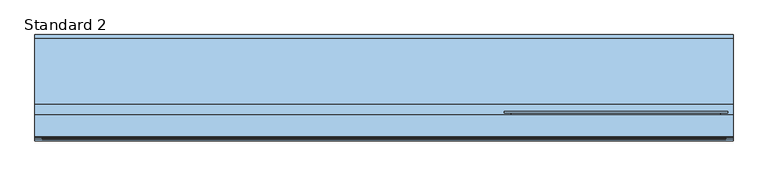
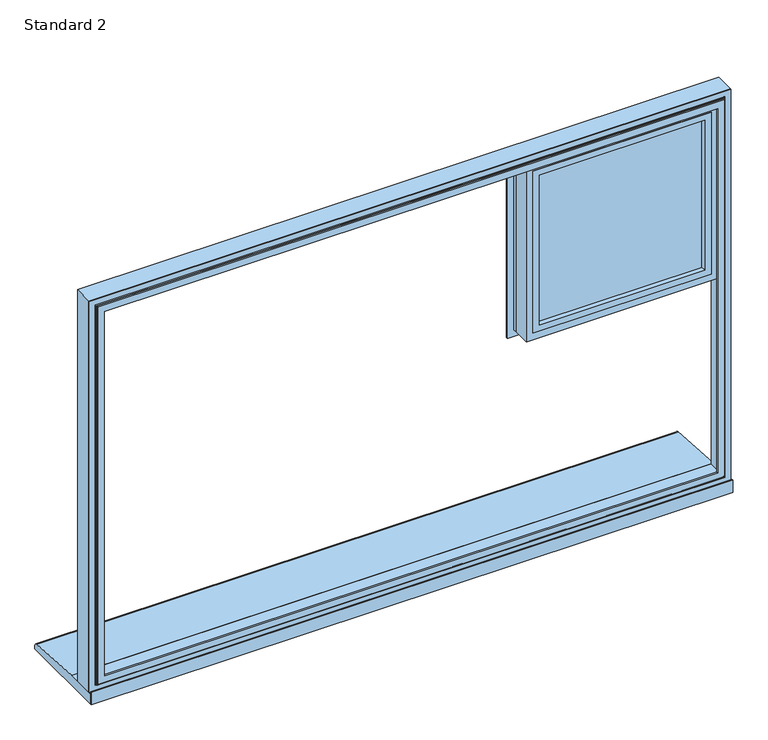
"""IFC4 building model written with IfcOpenShell, lengths in millimetres: window geometry, SMARTS_AlithermHeritage : Standard 2."""

from ifc_helpers import new_model, si_unit, point, frame, frame_2d, origin, place, context, project, spatial, polyline, circle_curve, ellipse_curve, trimmed, segment, composite_curve, outline, extrude, source, transform, mapped, element, save
from ifc_brep_helpers import plane_surface, cylinder_surface, revolved_surface, advanced_brep


def standard_2_7d086ee7(model_context):
    return source(origin(), model_context, "Body", "SolidModel", [
        extrude(outline(polyline([(1590.0, 740.0), (1590.0, -740.0), (635.0, -740.0), (635.0, 740.0), (1590.0, 740.0)]), holes=[polyline([(652.7000182, 722.2999818), (652.7000182, -722.2999818), (1572.2999818, -722.2999818), (1572.2999818, 722.2999818), (652.7000182, 722.2999818)])]), frame((0.0, 50.279857, 0.0), z_axis=(0.0, 1.0, 0.0), x_axis=(0.0, 0.0, 1.0)), (0.0, 0.0, 1.0), 44.9999962),
        advanced_brep(
        [(707.0, 43.2798432, 1557.0), (707.0, 47.2798432, 1557.0), (707.0, 47.2798432, 668.0), (707.0, 43.2798432, 668.0), (740.0, 50.279857, 1590.0), (740.0, 48.279857, 1590.0), (740.0, 48.279857, 635.0), (740.0, 50.279857, 635.0), (722.4999818, 43.2798432, 1572.4999818), (-722.4999818, 43.2798432, 1572.4999818), (-722.4999818, 43.2798432, 652.5000182), (722.4999818, 43.2798432, 652.5000182), (-707.0, 43.2798432, 668.0), (-707.0, 43.2798432, 1557.0), (-740.0, 50.279857, 1590.0), (-740.0, 48.279857, 1590.0), (-740.0, 50.279857, 635.0), (722.2999818, 50.279857, 1572.2999818), (-722.2999818, 50.279857, 1572.2999818), (-722.2999818, 50.279857, 652.7000182), (722.2999818, 50.279857, 652.7000182), (-707.0, 47.2798432, 1557.0), (-707.0, 47.2798432, 668.0), (-740.0, 48.279857, 635.0), (-722.2999818, 47.2798432, 1572.2999818), (722.2999818, 47.2798432, 1572.2999818), (722.2999818, 47.2798432, 652.7000182), (724.4999818, 46.779857, 650.5000182), (724.4999818, 45.2798432, 650.5000182), (-724.4999818, 45.2798432, 650.5000182), (-724.4999818, 46.779857, 650.5000182), (724.4999818, 46.779857, 1574.4999818), (724.4999818, 45.2798432, 1574.4999818), (-722.2999818, 47.2798432, 652.7000182), (-724.4999818, 45.2798432, 1574.4999818), (-724.4999818, 46.779857, 1574.4999818), (725.9999818, 48.279857, 1575.9999818), (725.9999818, 48.279857, 649.0000182), (-725.9999818, 48.279857, 649.0000182), (-725.9999818, 48.279857, 1575.9999818)],
        [
            (0, 1),
            (1, 2),
            (2, 3),
            (3, 0),
            (4, 5),
            (5, 6),
            (6, 7),
            (7, 4),
            (8, 9),
            (9, 10),
            (10, 11),
            (11, 8),
            (3, 12),
            (12, 13),
            (13, 0),
            (14, 15),
            (15, 5),
            (4, 14),
            (7, 16),
            (16, 14),
            (17, 18),
            (18, 19),
            (19, 20),
            (20, 17),
            (13, 21),
            (21, 1),
            (2, 22),
            (22, 12),
            (22, 21),
            (6, 23),
            (23, 16),
            (23, 15),
            (24, 18),
            (17, 25),
            (25, 24),
            (20, 26),
            (26, 25),
            (27, 28),
            (28, 29),
            (29, 30),
            (30, 27),
            (31, 32),
            (32, 28),
            (27, 31),
            (19, 33),
            (33, 26),
            (24, 33),
            (29, 34),
            (34, 35),
            (35, 30),
            (34, 32),
            (31, 35),
            (36, 31, ellipse_curve(frame((725.9999818, 46.779857, 1575.9999818), z_axis=(-0.7071067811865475, 0.0, 0.7071067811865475), x_axis=(-0.7071067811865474, 0.0, -0.7071067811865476)), 2.1213203, 1.5)),
            (27, 37, ellipse_curve(frame((725.9999818, 46.779857, 649.0000182), z_axis=(-0.7071067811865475, 0.0, -0.7071067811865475), x_axis=(0.7071067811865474, 0.0, -0.7071067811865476)), 2.1213203, 1.5)),
            (37, 36),
            (30, 38, ellipse_curve(frame((-725.9999818, 46.779857, 649.0000182), z_axis=(-0.7071067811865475, 0.0, 0.7071067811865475), x_axis=(-0.7071067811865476, 0.0, -0.7071067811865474)), 2.1213203, 1.5)),
            (38, 37),
            (35, 39, ellipse_curve(frame((-725.9999818, 46.779857, 1575.9999818), z_axis=(0.7071067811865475, 0.0, 0.7071067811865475), x_axis=(-0.7071067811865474, 0.0, 0.7071067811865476)), 2.1213203, 1.5)),
            (39, 38),
            (36, 39),
            (32, 8, ellipse_curve(frame((722.4999818, 45.2798432, 1572.4999818), z_axis=(0.7071067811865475, 0.0, -0.7071067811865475), x_axis=(0.7071067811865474, 0.0, 0.7071067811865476)), 2.8284271, 2.0)),
            (11, 28, ellipse_curve(frame((722.4999818, 45.2798432, 652.5000182), z_axis=(0.7071067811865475, 0.0, 0.7071067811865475), x_axis=(-0.7071067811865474, 0.0, 0.7071067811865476)), 2.8284271, 2.0)),
            (10, 29, ellipse_curve(frame((-722.4999818, 45.2798432, 652.5000182), z_axis=(0.7071067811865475, 0.0, -0.7071067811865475), x_axis=(0.7071067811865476, 0.0, 0.7071067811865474)), 2.8284271, 2.0)),
            (9, 34, ellipse_curve(frame((-722.4999818, 45.2798432, 1572.4999818), z_axis=(-0.7071067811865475, 0.0, -0.7071067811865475), x_axis=(0.7071067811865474, 0.0, -0.7071067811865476)), 2.8284271, 2.0)),
        ],
        [
            plane_surface(frame((707.0, 47.2798432, 1557.0), z_axis=(-1.0, 0.0, 0.0), x_axis=(0.0, 0.0, -1.0))),
            plane_surface(frame((740.0, 48.279857, 1590.0), z_axis=(1.0, 0.0, 0.0), x_axis=(0.0, 0.0, -1.0))),
            plane_surface(frame((-707.0, 43.2798432, 1557.0), z_axis=(0.0, -1.0, 0.0), x_axis=(1.0, 0.0, 0.0))),
            plane_surface(frame((-740.0, 48.279857, 1590.0), z_axis=(0.0, 0.0, 1.0), x_axis=(1.0, 0.0, 0.0))),
            plane_surface(frame((-740.0, 50.279857, 1590.0), z_axis=(0.0, 1.0, 0.0), x_axis=(1.0, 0.0, 0.0))),
            plane_surface(frame((-707.0, 47.2798432, 1557.0), z_axis=(0.0, 0.0, -1.0), x_axis=(1.0, 0.0, 0.0))),
            plane_surface(frame((707.0, 47.2798432, 668.0), z_axis=(0.0, 0.0, 1.0), x_axis=(-1.0, 0.0, 0.0))),
            plane_surface(frame((-707.0, 47.2798432, 668.0), z_axis=(1.0, 0.0, 0.0), x_axis=(0.0, 0.0, 1.0))),
            plane_surface(frame((740.0, 48.279857, 635.0), z_axis=(0.0, 0.0, -1.0), x_axis=(-1.0, 0.0, 0.0))),
            plane_surface(frame((-740.0, 48.279857, 635.0), z_axis=(-1.0, 0.0, 0.0), x_axis=(0.0, 0.0, 1.0))),
            plane_surface(frame((-722.2999818, 50.279857, 1572.2999818), z_axis=(0.0, 0.0, -1.0), x_axis=(1.0, 0.0, 0.0))),
            plane_surface(frame((722.2999818, 50.279857, 1572.2999818), z_axis=(-1.0, 0.0, 0.0), x_axis=(0.0, 0.0, -1.0))),
            plane_surface(frame((724.4999818, 45.2798432, 650.5000182), z_axis=(0.0, 0.0, -1.0), x_axis=(-1.0, 0.0, 0.0))),
            plane_surface(frame((724.4999818, 45.2798432, 1574.4999818), z_axis=(1.0, 0.0, 0.0), x_axis=(0.0, 0.0, -1.0))),
            plane_surface(frame((722.2999818, 50.279857, 652.7000182), z_axis=(0.0, 0.0, 1.0), x_axis=(-1.0, 0.0, 0.0))),
            plane_surface(frame((-722.2999818, 50.279857, 652.7000182), z_axis=(1.0, 0.0, 0.0), x_axis=(0.0, 0.0, 1.0))),
            plane_surface(frame((-724.4999818, 45.2798432, 650.5000182), z_axis=(-1.0, 0.0, 0.0), x_axis=(0.0, 0.0, 1.0))),
            plane_surface(frame((-722.2999818, 47.2798432, 1572.2999818), z_axis=(0.0, 1.0, 0.0), x_axis=(1.0, 0.0, 0.0))),
            plane_surface(frame((-724.4999818, 45.2798432, 1574.4999818), z_axis=(0.0, 0.0, 1.0), x_axis=(1.0, 0.0, 0.0))),
            revolved_surface(polyline([(724.4999818, 46.779857, 647.5000182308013), (724.4999818, 46.779857, 1577.4999817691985)]), (725.9999818, 46.779857, 1590.0), (0.0, 0.0, -1.0)),
            revolved_surface(polyline([(-727.4999817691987, 46.779857, 650.5000182), (727.4999817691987, 46.779857, 650.5000182)]), (740.0, 46.779857, 649.0000182), (-1.0, 0.0, 0.0)),
            revolved_surface(polyline([(-724.4999818, 46.779857, 1577.4999817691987), (-724.4999818, 46.779857, 647.5000182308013)]), (-725.9999818, 46.779857, 635.0), (0.0, 0.0, 1.0)),
            revolved_surface(polyline([(727.4999817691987, 46.779857, 1574.4999818), (-727.4999817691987, 46.779857, 1574.4999818)]), (-740.0, 46.779857, 1575.9999818), (1.0, 0.0, 0.0)),
            plane_surface(frame((-725.9999818, 48.279857, 1575.9999818), z_axis=(0.0, -1.0, 0.0), x_axis=(1.0, 0.0, 0.0))),
            cylinder_surface(frame((722.4999818, 45.2798432, 1590.0), z_axis=(0.0, 0.0, 1.0), x_axis=(-1.0, 0.0, 0.0)), 2.0),
            cylinder_surface(frame((740.0, 45.2798432, 652.5000182), z_axis=(1.0, 0.0, 0.0), x_axis=(0.0, 0.0, 1.0)), 2.0),
            cylinder_surface(frame((-722.4999818, 45.2798432, 635.0), z_axis=(0.0, 0.0, -1.0), x_axis=(1.0, 0.0, 0.0)), 2.0),
            cylinder_surface(frame((-740.0, 45.2798432, 1572.4999818), z_axis=(-1.0, 0.0, 0.0), x_axis=(0.0, 0.0, -1.0)), 2.0),
        ],
        [
            (0, [[1, 2, 3, 4]]),
            (1, [[5, 6, 7, 8]]),
            (2, [[9, 10, 11, 12], [13, 14, 15, -4]]),
            (3, [[16, 17, -5, 18]]),
            (4, [[19, 20, -18, -8], [21, 22, 23, 24]]),
            (5, [[25, 26, -1, -15]]),
            (6, [[-3, 27, 28, -13]]),
            (7, [[-28, 29, -25, -14]]),
            (8, [[-7, 30, 31, -19]]),
            (9, [[-31, 32, -16, -20]]),
            (10, [[33, -21, 34, 35]]),
            (11, [[-34, -24, 36, 37]]),
            (12, [[38, 39, 40, 41]]),
            (13, [[42, 43, -38, 44]]),
            (14, [[-36, -23, 45, 46]]),
            (15, [[-45, -22, -33, 47]]),
            (16, [[-40, 48, 49, 50]]),
            (17, [[-46, -47, -35, -37], [-26, -29, -27, -2]]),
            (18, [[-49, 51, -42, 52]]),
            (19, [[53, -44, 54, 55]]),
            (20, [[-54, -41, 56, 57]]),
            (21, [[-56, -50, 58, 59]]),
            (22, [[-58, -52, -53, 60]]),
            (23, [[-17, -32, -30, -6], [-57, -59, -60, -55]]),
            (24, [[61, -12, 62, -43]]),
            (25, [[-62, -11, 63, -39]]),
            (26, [[-63, -10, 64, -48]]),
            (27, [[-64, -9, -61, -51]]),
        ],
    ),
        extrude(outline(polyline([(289.1666667, 89.2798432), (693.5, 89.2798432), (693.5, 85.2798432), (289.1666667, 85.2798432), (289.1666667, 89.2798432)])), frame((0.0, 0.0, 1155.0), z_axis=(0.0, 0.0, 1.0), x_axis=(1.0, 0.0, 0.0)), (0.0, 0.0, 1.0), 388.5),
        extrude(outline(polyline([(289.1666667, 69.2798432), (693.5, 69.2798432), (693.5, 65.2798432), (289.1666667, 65.2798432), (289.1666667, 69.2798432)])), frame((0.0, 0.0, 1155.0), z_axis=(0.0, 0.0, 1.0), x_axis=(1.0, 0.0, 0.0)), (0.0, 0.0, 1.0), 388.5),
        extrude(outline(polyline([(1543.5, 289.1666667), (1155.0, 289.1666667), (1155.0, 693.5), (1543.5, 693.5), (1543.5, 289.1666667)]), holes=[polyline([(1533.5, 683.5), (1165.0, 683.5), (1165.0, 299.1666667), (1533.5, 299.1666667), (1533.5, 683.5)])]), frame((0.0, 69.2798432, 0.0), z_axis=(0.0, 1.0, 0.0), x_axis=(0.0, 0.0, 1.0)), (0.0, 0.0, 1.0), 16.0),
        extrude(outline(polyline([(1547.0052956, 285.661371), (1151.4947044, 285.661371), (1151.4947044, 697.0052956), (1547.0052956, 697.0052956), (1547.0052956, 285.661371)]), holes=[polyline([(1532.0, 682.0), (1166.5, 682.0), (1166.5, 300.6666667), (1532.0, 300.6666667), (1532.0, 682.0)])]), frame((0.0, 51.2798432, 0.0), z_axis=(0.0, 1.0, 0.0), x_axis=(0.0, 0.0, 1.0)), (0.0, 0.0, 1.0), 11.3),
        extrude(outline(polyline([(1135.8548042, 270.0214709), (1135.8548042, 712.6451958), (1562.6451958, 712.6451958), (1562.6451958, 270.0214709), (1135.8548042, 270.0214709)]), holes=[polyline([(1547.0, 285.6666667), (1547.0, 697.0), (1151.5, 697.0), (1151.5, 285.6666667), (1547.0, 285.6666667)])]), frame((0.0, 51.2798432, 0.0), z_axis=(0.0, 1.0, 0.0), x_axis=(0.0, 0.0, 1.0)), (0.0, 0.0, 1.0), 41.6),
        advanced_brep(
        [(300.6666667, 98.0798432, 1532.0), (300.6666667, 92.8798432, 1532.0), (300.6666667, 92.8798432, 1166.5), (300.6666667, 98.0798432, 1166.5), (682.0, 92.8798432, 1166.5), (682.0, 98.0798432, 1166.5), (682.0, 92.8798432, 1532.0), (682.0, 98.0798432, 1532.0), (254.4666667, 99.2798432, 1578.2), (254.4666667, 103.2798432, 1578.2), (254.4666667, 103.2798432, 1120.3), (254.4666667, 99.2798432, 1120.3), (728.2, 103.2798432, 1120.3), (728.2, 99.2798432, 1120.3), (728.2, 103.2798432, 1578.2), (728.2, 99.2798432, 1578.2), (269.5199009, 99.2798432, 1563.1467657), (713.1467657, 99.2798432, 1563.1467657), (713.1467657, 99.2798432, 1135.3532343), (269.5199009, 99.2798432, 1135.3532343), (283.4666667, 103.2798432, 1149.3), (699.2, 103.2798432, 1149.3), (699.2, 103.2798432, 1549.2), (283.4666667, 103.2798432, 1549.2), (269.5199009, 92.8798432, 1563.1467657), (269.5199009, 92.8798432, 1135.3532343), (713.1467657, 92.8798432, 1135.3532343), (713.1467657, 92.8798432, 1563.1467657), (285.4666667, 101.2798432, 1547.2), (285.4666667, 100.0798432, 1547.2), (285.4666667, 100.0798432, 1151.3), (285.4666667, 101.2798432, 1151.3), (287.4666667, 98.0798432, 1545.2), (287.4666667, 98.0798432, 1153.3), (697.2, 100.0798432, 1151.3), (697.2, 101.2798432, 1151.3), (695.2, 98.0798432, 1153.3), (697.2, 100.0798432, 1547.2), (697.2, 101.2798432, 1547.2), (695.2, 98.0798432, 1545.2)],
        [
            (0, 1),
            (1, 2),
            (2, 3),
            (3, 0),
            (2, 4),
            (4, 5),
            (5, 3),
            (4, 6),
            (6, 7),
            (7, 5),
            (6, 1),
            (0, 7),
            (8, 9),
            (9, 10),
            (10, 11),
            (11, 8),
            (10, 12),
            (12, 13),
            (13, 11),
            (12, 14),
            (14, 15),
            (15, 13),
            (15, 8),
            (16, 17),
            (17, 18),
            (18, 19),
            (19, 16),
            (14, 9),
            (20, 21),
            (21, 22),
            (22, 23),
            (23, 20),
            (24, 16),
            (19, 25),
            (25, 24),
            (18, 26),
            (26, 25),
            (17, 27),
            (27, 26),
            (27, 24),
            (28, 29),
            (29, 30),
            (30, 31),
            (31, 28),
            (29, 32, ellipse_curve(frame((287.4666667, 100.0798432, 1545.2), z_axis=(0.7071067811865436, 0.0, 0.7071067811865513), x_axis=(0.7071067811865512, 0.0, -0.7071067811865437)), 2.8284271, 2.0)),
            (32, 33),
            (33, 30, ellipse_curve(frame((287.4666667, 100.0798432, 1153.3), z_axis=(0.7071067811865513, 0.0, -0.7071067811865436), x_axis=(-0.7071067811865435, 0.0, -0.7071067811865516)), 2.8284271, 2.0)),
            (30, 34),
            (34, 35),
            (35, 31),
            (33, 36),
            (36, 34, ellipse_curve(frame((695.2, 100.0798432, 1153.3), z_axis=(0.7071067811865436, 0.0, 0.7071067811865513), x_axis=(0.7071067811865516, 0.0, -0.7071067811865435)), 2.8284271, 2.0)),
            (34, 37),
            (37, 38),
            (38, 35),
            (36, 39),
            (39, 37, ellipse_curve(frame((695.2, 100.0798432, 1545.2), z_axis=(-0.7071067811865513, 0.0, 0.7071067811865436), x_axis=(0.7071067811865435, 0.0, 0.7071067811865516)), 2.8284271, 2.0)),
            (32, 39),
            (37, 29),
            (28, 38),
            (23, 28, ellipse_curve(frame((283.4666667, 101.2798432, 1549.2), z_axis=(-0.7071067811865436, 0.0, -0.7071067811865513), x_axis=(-0.7071067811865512, 0.0, 0.7071067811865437)), 2.8284271, 2.0)),
            (31, 20, ellipse_curve(frame((283.4666667, 101.2798432, 1149.3), z_axis=(-0.7071067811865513, 0.0, 0.7071067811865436), x_axis=(0.7071067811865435, 0.0, 0.7071067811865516)), 2.8284271, 2.0)),
            (35, 21, ellipse_curve(frame((699.2, 101.2798432, 1149.3), z_axis=(-0.7071067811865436, 0.0, -0.7071067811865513), x_axis=(-0.7071067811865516, 0.0, 0.7071067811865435)), 2.8284271, 2.0)),
            (38, 22, ellipse_curve(frame((699.2, 101.2798432, 1549.2), z_axis=(0.7071067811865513, 0.0, -0.7071067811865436), x_axis=(-0.7071067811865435, 0.0, -0.7071067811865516)), 2.8284271, 2.0)),
        ],
        [
            plane_surface(frame((300.6666667, 92.8798432, 1532.0), z_axis=(1.0, 0.0, 0.0), x_axis=(0.0, 0.0, -1.0))),
            plane_surface(frame((300.6666667, 92.8798432, 1166.5), z_axis=(0.0, 0.0, 1.0), x_axis=(1.0, 0.0, 0.0))),
            plane_surface(frame((682.0, 92.8798432, 1166.5), z_axis=(-1.0, 0.0, 0.0), x_axis=(0.0, 0.0, 1.0))),
            plane_surface(frame((682.0, 92.8798432, 1532.0), z_axis=(0.0, 0.0, -1.0), x_axis=(-1.0, 0.0, 0.0))),
            plane_surface(frame((254.4666667, 103.2798432, 1578.2), z_axis=(-1.0, 0.0, 0.0), x_axis=(0.0, 0.0, -1.0))),
            plane_surface(frame((254.4666667, 103.2798432, 1120.3), z_axis=(0.0, 0.0, -1.0), x_axis=(1.0, 0.0, 0.0))),
            plane_surface(frame((728.2, 103.2798432, 1120.3), z_axis=(1.0, 0.0, 0.0), x_axis=(0.0, 0.0, 1.0))),
            plane_surface(frame((728.2, 99.2798432, 1578.2), z_axis=(0.0, -1.0, 0.0), x_axis=(-1.0, 0.0, 0.0))),
            plane_surface(frame((728.2, 103.2798432, 1578.2), z_axis=(0.0, 0.0, 1.0), x_axis=(-1.0, 0.0, 0.0))),
            plane_surface(frame((699.2, 103.2798432, 1549.2), z_axis=(0.0, 1.0, 0.0), x_axis=(-1.0, 0.0, 0.0))),
            plane_surface(frame((269.5199009, 99.2798432, 1563.1467657), z_axis=(-1.0, 0.0, 0.0), x_axis=(0.0, 0.0, -1.0))),
            plane_surface(frame((269.5199009, 99.2798432, 1135.3532343), z_axis=(0.0, 0.0, -1.0), x_axis=(1.0, 0.0, 0.0))),
            plane_surface(frame((713.1467657, 99.2798432, 1135.3532343), z_axis=(1.0, 0.0, 0.0), x_axis=(0.0, 0.0, 1.0))),
            plane_surface(frame((713.1467657, 92.8798432, 1563.1467657), z_axis=(0.0, -1.0, 0.0), x_axis=(-1.0, 0.0, 0.0))),
            plane_surface(frame((713.1467657, 99.2798432, 1563.1467657), z_axis=(0.0, 0.0, 1.0), x_axis=(-1.0, 0.0, 0.0))),
            plane_surface(frame((285.4666667, 100.0798432, 1547.2), z_axis=(1.0, 0.0, 0.0), x_axis=(0.0, 0.0, -1.0))),
            revolved_surface(polyline([(285.4666667, 100.0798432, 1151.3), (285.4666667, 100.0798432, 1547.2)]), (287.4666667, 100.0798432, 1557.0), (0.0, 0.0, -1.0)),
            plane_surface(frame((285.4666667, 100.0798432, 1151.3), z_axis=(0.0, 0.0, 1.0), x_axis=(1.0, 0.0, 0.0))),
            revolved_surface(polyline([(697.2, 100.0798432, 1151.3), (285.4666667, 100.0798432, 1151.3)]), (275.6666667, 100.0798432, 1153.3), (1.0, 0.0, 0.0)),
            plane_surface(frame((697.2, 100.0798432, 1151.3), z_axis=(-1.0, 0.0, 0.0), x_axis=(0.0, 0.0, 1.0))),
            revolved_surface(polyline([(697.2, 100.0798432, 1547.2), (697.2, 100.0798432, 1151.3)]), (695.2, 100.0798432, 1141.5), (0.0, 0.0, 1.0)),
            plane_surface(frame((682.0, 98.0798432, 1532.0), z_axis=(0.0, 1.0, 0.0), x_axis=(-1.0, 0.0, 0.0))),
            plane_surface(frame((697.2, 100.0798432, 1547.2), z_axis=(0.0, 0.0, -1.0), x_axis=(-1.0, 0.0, 0.0))),
            revolved_surface(polyline([(285.4666667, 100.0798432, 1547.2), (697.2, 100.0798432, 1547.2)]), (707.0, 100.0798432, 1545.2), (-1.0, 0.0, 0.0)),
            cylinder_surface(frame((283.4666667, 101.2798432, 1557.0), z_axis=(0.0, 0.0, 1.0), x_axis=(-1.0, 0.0, 0.0)), 2.0),
            cylinder_surface(frame((275.6666667, 101.2798432, 1149.3), z_axis=(-1.0, 0.0, 0.0), x_axis=(0.0, 0.0, -1.0)), 2.0),
            cylinder_surface(frame((699.2, 101.2798432, 1141.5), z_axis=(0.0, 0.0, -1.0), x_axis=(1.0, 0.0, 0.0)), 2.0),
            cylinder_surface(frame((707.0, 101.2798432, 1549.2), z_axis=(1.0, 0.0, 0.0), x_axis=(0.0, 0.0, 1.0)), 2.0),
        ],
        [
            (0, [[1, 2, 3, 4]]),
            (1, [[-3, 5, 6, 7]]),
            (2, [[-6, 8, 9, 10]]),
            (3, [[-9, 11, -1, 12]]),
            (4, [[13, 14, 15, 16]]),
            (5, [[-15, 17, 18, 19]]),
            (6, [[-18, 20, 21, 22]]),
            (7, [[-19, -22, 23, -16], [24, 25, 26, 27]]),
            (8, [[-21, 28, -13, -23]]),
            (9, [[-28, -20, -17, -14], [29, 30, 31, 32]]),
            (10, [[33, -27, 34, 35]]),
            (11, [[-34, -26, 36, 37]]),
            (12, [[-36, -25, 38, 39]]),
            (13, [[-37, -39, 40, -35], [-11, -8, -5, -2]]),
            (14, [[-38, -24, -33, -40]]),
            (15, [[41, 42, 43, 44]]),
            (16, [[45, 46, 47, -42]]),
            (17, [[-43, 48, 49, 50]]),
            (18, [[-47, 51, 52, -48]]),
            (19, [[-49, 53, 54, 55]]),
            (20, [[-52, 56, 57, -53]]),
            (21, [[58, -56, -51, -46], [-7, -10, -12, -4]]),
            (22, [[-54, 59, -41, 60]]),
            (23, [[-57, -58, -45, -59]]),
            (24, [[61, -44, 62, -32]]),
            (25, [[-62, -50, 63, -29]]),
            (26, [[-63, -55, 64, -30]]),
            (27, [[-64, -60, -61, -31]]),
        ],
    ),
        extrude(outline(polyline([(740.0, 43.2798432), (740.0, 40.7798432), (-740.0, 40.7798432), (-740.0, 43.2798432), (740.0, 43.2798432)])), frame((0.0, 0.0, 610.0), z_axis=(0.0, 0.0, 1.0), x_axis=(1.0, 0.0, 0.0)), (0.0, 0.0, 1.0), 31.0),
        extrude(outline(composite_curve([segment(polyline([(265.7798432, 610.0), (43.2798432, 610.0), (43.2798432, 635.0), (118.7798432, 635.0), (258.4770891, 625.9276664)]), True, "CONTINUOUS"), segment(trimmed(circle_curve(frame_2d((257.7798432, 617.9581088)), 8.0), [point((258.4770891, 625.9276664))], [point((265.7798432, 617.9581088))], False, "CARTESIAN"), True, "CONTINUOUS"), segment(polyline([(265.7798432, 617.9581088), (265.7798432, 610.0)]), True, "CONTINUOUS")], self_intersect=False)), frame((-740.0, 0.0, 0.0), z_axis=(1.0, 0.0, 0.0), x_axis=(0.0, 1.0, 0.0)), (0.0, 0.0, 1.0), 1480.0),
    ])


if __name__ == "__main__":
    model = new_model("IFC4")
    model_context = context("Model", 3, world=origin())
    ifc_project = project(units=[si_unit("LENGTHUNIT", "METRE", prefix="MILLI")], contexts=[model_context])
    site = spatial("IfcSite", under=ifc_project)
    building = spatial("IfcBuilding", under=site)
    placement = place(None, origin())
    standard_2_shape = standard_2_7d086ee7(model_context)
    element("IfcWindow", 1, ObjectType="SMARTS_AlithermHeritage : Standard 2", at=placement, inside=building, context=model_context, shape_type="MappedRepresentation", body=[
        mapped(standard_2_shape, transform((0.0, 0.0, 0.0), x_axis=(1.0, 0.0, 0.0), y_axis=(0.0, 1.0, 0.0), z_axis=(0.0, 0.0, 1.0))),
    ])
    save(model, "model.ifc")
